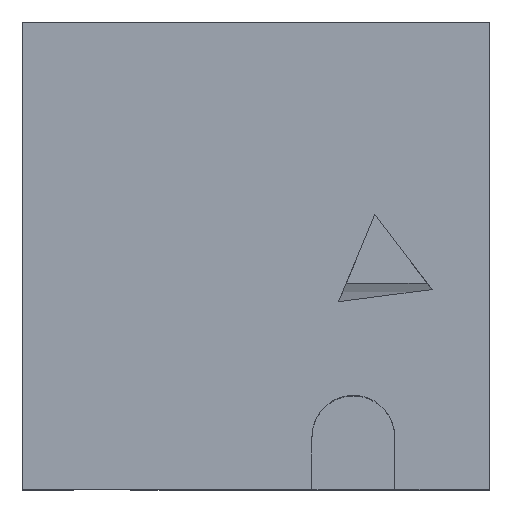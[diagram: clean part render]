
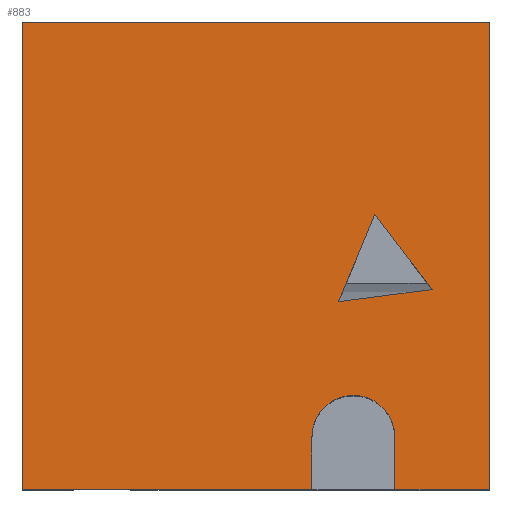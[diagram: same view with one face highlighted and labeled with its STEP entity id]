
A CAD part, top view. The second image highlights one B-rep face of the part: STEP entity #883.
In plain terms, the highlighted planar face has unit normal (0, 0, 1).
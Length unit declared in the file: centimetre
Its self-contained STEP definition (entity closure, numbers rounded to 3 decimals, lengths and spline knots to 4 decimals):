
#44 = CARTESIAN_POINT ( 'NONE',  ( 619.6855, 0., 1000. ) ) ;
#54 = CARTESIAN_POINT ( 'NONE',  ( 0., 1000., 1000. ) ) ;
#56 = DIRECTION ( 'NONE',  ( 0., -1., 0. ) ) ;
#57 = VERTEX_POINT ( 'NONE', #365 ) ;
#81 = VECTOR ( 'NONE', #684, 100. ) ;
#121 = VERTEX_POINT ( 'NONE', #284 ) ;
#141 = DIRECTION ( 'NONE',  ( 0., 1., 0. ) ) ;
#164 = EDGE_CURVE ( 'NONE', #446, #1113, #1273, .T. ) ;
#177 = LINE ( 'NONE', #860, #1085 ) ;
#180 = EDGE_CURVE ( 'NONE', #943, #57, #858, .T. ) ;
#200 = CARTESIAN_POINT ( 'NONE',  ( 619.6855, 0., 1000. ) ) ;
#204 = EDGE_CURVE ( 'NONE', #1113, #517, #660, .T. ) ;
#221 = AXIS2_PLACEMENT_3D ( 'NONE', #1246, #342, #631 ) ;
#229 = ORIENTED_EDGE ( 'NONE', *, *, #1106, .F. ) ;
#233 = LINE ( 'NONE', #327, #957 ) ;
#239 = CARTESIAN_POINT ( 'NONE',  ( 754.1567, 588.2902, 1000. ) ) ;
#258 = PLANE ( 'NONE',  #221 ) ;
#263 = ORIENTED_EDGE ( 'NONE', *, *, #937, .F. ) ;
#284 = CARTESIAN_POINT ( 'NONE',  ( 796.8414, 112.5718, 1000. ) ) ;
#301 = VECTOR ( 'NONE', #1249, 100. ) ;
#304 = EDGE_LOOP ( 'NONE', ( #925, #326, #1035, #1133, #713, #965, #524, #328 ) ) ;
#326 = ORIENTED_EDGE ( 'NONE', *, *, #1115, .F. ) ;
#327 = CARTESIAN_POINT ( 'NONE',  ( 0., 0., 1000. ) ) ;
#328 = ORIENTED_EDGE ( 'NONE', *, *, #1089, .T. ) ;
#342 = DIRECTION ( 'NONE',  ( 0., 0., 1. ) ) ;
#357 = VECTOR ( 'NONE', #633, 100. ) ;
#365 = CARTESIAN_POINT ( 'NONE',  ( 876.968, 427.7627, 1000. ) ) ;
#370 = VECTOR ( 'NONE', #679, 100. ) ;
#386 = CARTESIAN_POINT ( 'NONE',  ( 0., 1000., 1000. ) ) ;
#408 = LINE ( 'NONE', #599, #702 ) ;
#426 = EDGE_CURVE ( 'NONE', #620, #828, #879, .T. ) ;
#430 = LINE ( 'NONE', #720, #357 ) ;
#432 = FACE_OUTER_BOUND ( 'NONE', #304, .T. ) ;
#441 = CARTESIAN_POINT ( 'NONE',  ( 708.2635, 112.5718, 1000. ) ) ;
#446 = VERTEX_POINT ( 'NONE', #484 ) ;
#471 = DIRECTION ( 'NONE',  ( -0.384, -0.923, 0. ) ) ;
#480 = EDGE_CURVE ( 'NONE', #896, #446, #1182, .T. ) ;
#484 = CARTESIAN_POINT ( 'NONE',  ( 1000., 1000., 1000. ) ) ;
#491 = DIRECTION ( 'NONE',  ( 0., 1., 0. ) ) ;
#517 = VERTEX_POINT ( 'NONE', #793 ) ;
#524 = ORIENTED_EDGE ( 'NONE', *, *, #204, .T. ) ;
#532 = EDGE_LOOP ( 'NONE', ( #859, #263, #229 ) ) ;
#543 = CARTESIAN_POINT ( 'NONE',  ( 0., 1000., 1000. ) ) ;
#583 = CIRCLE ( 'NONE', #741, 88.578 ) ;
#599 = CARTESIAN_POINT ( 'NONE',  ( 796.8414, 112.5718, 1000. ) ) ;
#620 = VERTEX_POINT ( 'NONE', #1186 ) ;
#626 = FACE_BOUND ( 'NONE', #532, .T. ) ;
#631 = DIRECTION ( 'NONE',  ( 1., 0., 0. ) ) ;
#633 = DIRECTION ( 'NONE',  ( 1., 0., 0. ) ) ;
#640 = LINE ( 'NONE', #658, #301 ) ;
#647 = DIRECTION ( 'NONE',  ( -1., 0., 0. ) ) ;
#658 = CARTESIAN_POINT ( 'NONE',  ( 876.968, 427.7627, 1000. ) ) ;
#660 = LINE ( 'NONE', #543, #1179 ) ;
#679 = DIRECTION ( 'NONE',  ( -1., 0., 0. ) ) ;
#684 = DIRECTION ( 'NONE',  ( 0., -1., 0. ) ) ;
#702 = VECTOR ( 'NONE', #141, 100. ) ;
#713 = ORIENTED_EDGE ( 'NONE', *, *, #480, .T. ) ;
#715 = DIRECTION ( 'NONE',  ( 1., 0., 0. ) ) ;
#720 = CARTESIAN_POINT ( 'NONE',  ( 0., 0., 1000. ) ) ;
#741 = AXIS2_PLACEMENT_3D ( 'NONE', #441, #1233, #647 ) ;
#757 = CARTESIAN_POINT ( 'NONE',  ( 1000., 0., 1000. ) ) ;
#762 = CARTESIAN_POINT ( 'NONE',  ( 676.5415, 401.6687, 1000. ) ) ;
#767 = EDGE_CURVE ( 'NONE', #805, #121, #408, .T. ) ;
#793 = CARTESIAN_POINT ( 'NONE',  ( 0., 0., 1000. ) ) ;
#805 = VERTEX_POINT ( 'NONE', #945 ) ;
#828 = VERTEX_POINT ( 'NONE', #44 ) ;
#858 = LINE ( 'NONE', #762, #1259 ) ;
#859 = ORIENTED_EDGE ( 'NONE', *, *, #180, .F. ) ;
#860 = CARTESIAN_POINT ( 'NONE',  ( 754.1567, 588.2902, 1000. ) ) ;
#879 = LINE ( 'NONE', #200, #81 ) ;
#881 = CARTESIAN_POINT ( 'NONE',  ( 1000., 1000., 1000. ) ) ;
#883 = ADVANCED_FACE ( 'NONE', ( #432, #626 ), #258, .T. ) ;
#896 = VERTEX_POINT ( 'NONE', #757 ) ;
#925 = ORIENTED_EDGE ( 'NONE', *, *, #426, .F. ) ;
#937 = EDGE_CURVE ( 'NONE', #1041, #943, #177, .T. ) ;
#943 = VERTEX_POINT ( 'NONE', #1166 ) ;
#945 = CARTESIAN_POINT ( 'NONE',  ( 796.8414, 0., 1000. ) ) ;
#957 = VECTOR ( 'NONE', #715, 100. ) ;
#965 = ORIENTED_EDGE ( 'NONE', *, *, #164, .T. ) ;
#985 = EDGE_CURVE ( 'NONE', #805, #896, #233, .T. ) ;
#1035 = ORIENTED_EDGE ( 'NONE', *, *, #767, .F. ) ;
#1041 = VERTEX_POINT ( 'NONE', #239 ) ;
#1085 = VECTOR ( 'NONE', #471, 100. ) ;
#1089 = EDGE_CURVE ( 'NONE', #517, #828, #430, .T. ) ;
#1106 = EDGE_CURVE ( 'NONE', #57, #1041, #640, .T. ) ;
#1113 = VERTEX_POINT ( 'NONE', #54 ) ;
#1115 = EDGE_CURVE ( 'NONE', #121, #620, #583, .T. ) ;
#1133 = ORIENTED_EDGE ( 'NONE', *, *, #985, .T. ) ;
#1163 = DIRECTION ( 'NONE',  ( 0.992, 0.129, 0. ) ) ;
#1166 = CARTESIAN_POINT ( 'NONE',  ( 676.5415, 401.6687, 1000. ) ) ;
#1179 = VECTOR ( 'NONE', #56, 100. ) ;
#1182 = LINE ( 'NONE', #881, #1234 ) ;
#1186 = CARTESIAN_POINT ( 'NONE',  ( 619.6855, 112.5718, 1000. ) ) ;
#1233 = DIRECTION ( 'NONE',  ( 0., 0., 1. ) ) ;
#1234 = VECTOR ( 'NONE', #491, 100. ) ;
#1246 = CARTESIAN_POINT ( 'NONE',  ( 0., 0., 1000. ) ) ;
#1249 = DIRECTION ( 'NONE',  ( -0.608, 0.794, 0. ) ) ;
#1259 = VECTOR ( 'NONE', #1163, 100. ) ;
#1273 = LINE ( 'NONE', #386, #370 ) ;
